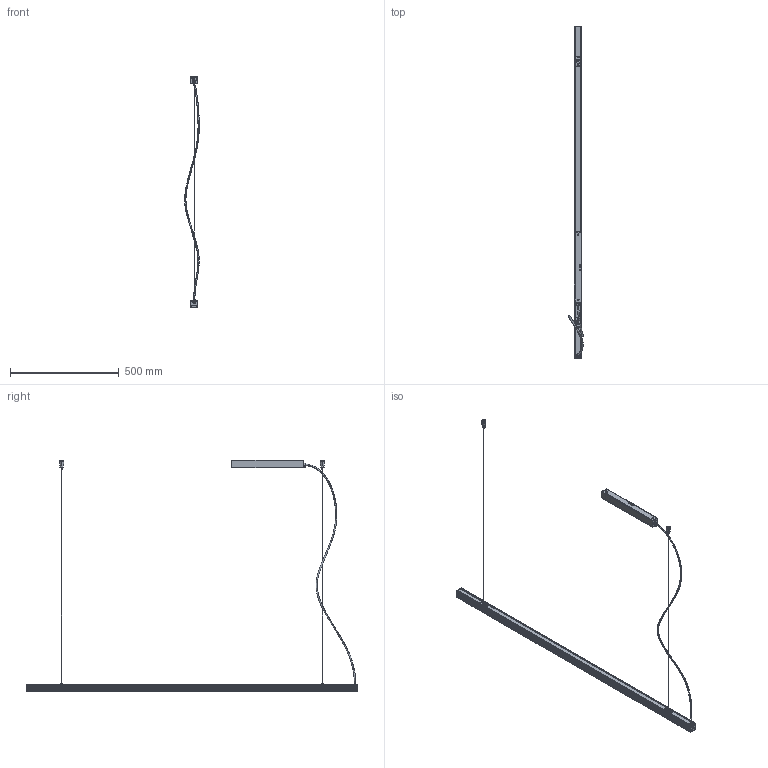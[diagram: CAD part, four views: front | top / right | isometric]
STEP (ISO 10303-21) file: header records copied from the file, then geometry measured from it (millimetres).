
FILE_DESCRIPTION(/* description */ (''),/* implementation_level */ '2;1');
FILE_NAME(/* name */ 'L233__~2',/* time_stamp */ '2024-07-01T14:44:36+02:00',/* author */ (''),/* organization */ (''),/* preprocessor_version */ 'ST-DEVELOPER v16.5',/* originating_system */ '',/* authorisation */ '');
FILE_SCHEMA (('AUTOMOTIVE_DESIGN'));
Length unit declared in the file: millimetre
Products named in the file (1): Document
Bounding box: 67.22 x 1527.4 x 1066.18 mm (x, y, z)
Volume: 535211 mm3; surface area: 710626.7 mm2
Topology: 30 solids, 30 shells, 1002 faces, 2538 edges, 1600 vertices
Faces by surface type: bspline 534, plane 468
Entity records: 42152 total; most frequent: CARTESIAN_POINT 26628, ORIENTED_EDGE 5052, EDGE_CURVE 2526, B_SPLINE_CURVE_WITH_KNOTS 1614, VERTEX_POINT 1600, EDGE_LOOP 1084, ADVANCED_FACE 1002, FACE_OUTER_BOUND 1002
